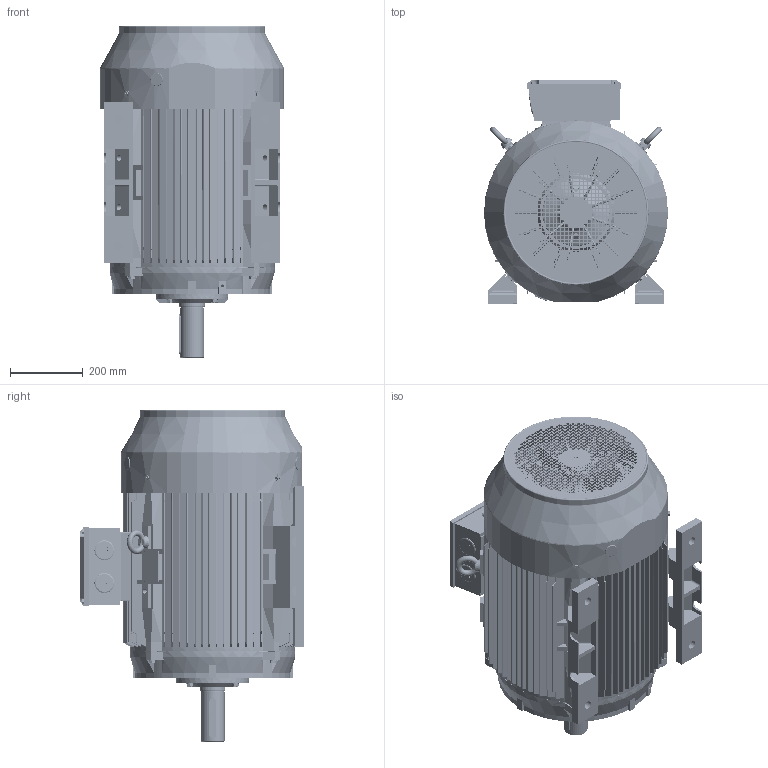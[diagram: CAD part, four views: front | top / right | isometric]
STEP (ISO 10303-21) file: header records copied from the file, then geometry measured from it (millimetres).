
FILE_DESCRIPTION (( 'STEP AP203' ), '1' );
FILE_NAME ('TC 250M B3外形图.STEP', '2013-05-08T09:04:14', ( '微软用户' ), ( '微软中国' ), 'SwSTEP 2.0', 'SolidWorks 2008', '' );
FILE_SCHEMA (( 'CONFIG_CONTROL_DESIGN' ));
Length unit declared in the file: millimetre
Products named in the file (26): TC250B3后端盖（TFC400T后端盖）_默认; 平键18-110_默认; TC250B3前端盖（TFC400T2极前端盖）_默认; 油封70-95-10_默认; TC 250 轴承外盖DE_默认; 螺塞M50_默认; M12-45_默认; M8-12_默认; 扣塞_默认; TC 250M B3俋倛芞; TC 250M B5机座_默认; TC 250M 底脚_默认; TC 250 轴承外盖NDE_默认; TC 250M转子_默认; TC 250M-4 转轴_默认; 6314_默认; IE2 250-4P 风叶_默认; TC 250 风罩_默认; TC 250-280S接线盒座_默认; TC 250-280S接线盒盖_默认; M10-80_默认; 10_默认; 12_默认; 铜油嘴_默认; M8-20_默认; 吊环M16_默认
Assembly tree (48 placements, depth 3):
  TC 250M B3俋倛芞
    IE2 250-4P 风叶_默认
    10_默认  x4
    M12-45_默认  x4
    TC 250M B5机座_默认
    TC 250 风罩_默认
    12_默认  x4
    螺塞M50_默认  x2
    M8-20_默认  x4
    TC 250M 底脚_默认  x2
    TC 250-280S接线盒座_默认
    M8-12_默认  x4
    扣塞_默认  x2
    吊环M16_默认  x2
    TC250B3后端盖（TFC400T后端盖）_默认
    TC 250-280S接线盒盖_默认
    M10-80_默认  x4
    铜油嘴_默认
    TC 250M转子_默认
      6314_默认  x2
      TC 250M-4 转轴_默认
      平键18-110_默认
    TC 250 轴承外盖NDE_默认
    TC 250 轴承外盖DE_默认
    油封70-95-10_默认
    TC250B3前端盖（TFC400T2极前端盖）_默认
Bounding box: 506.4 x 614.03 x 913.5 mm (x, y, z)
Volume: 26309744.4 mm3; surface area: 5935218.1 mm2
Topology: 48 solids, 49 shells, 9329 faces, 27060 edges, 17846 vertices
Faces by surface type: plane 4584, cylinder 3837, cone 348, bspline 300, torus 198, sphere 62
Entity records: 310634 total; most frequent: CARTESIAN_POINT 72580, ORIENTED_EDGE 50208, DIRECTION 48229, EDGE_CURVE 25104, VERTEX_POINT 16596, AXIS2_PLACEMENT_3D 16519, VECTOR 15191, LINE 15191
